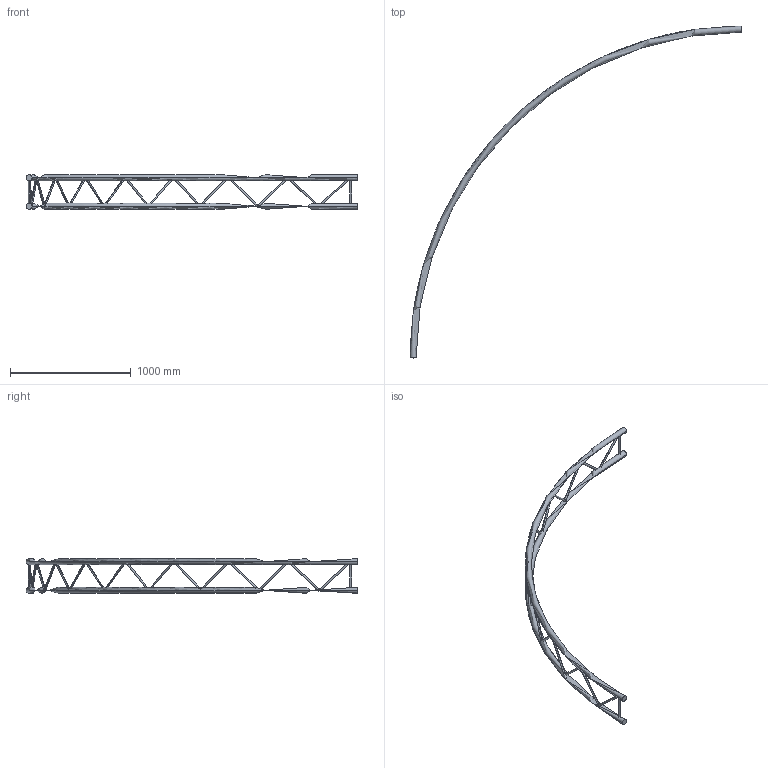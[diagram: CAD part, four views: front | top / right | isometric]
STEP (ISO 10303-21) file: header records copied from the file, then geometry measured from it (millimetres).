
FILE_DESCRIPTION (( 'STEP AP203' ), '1' );
FILE_NAME ('EXC29550V.STEP', '2009-10-26T09:19:44', ( 'CEDIA' ), ( 'CEDIA INDUSTRIE' ), 'SwSTEP 2.0', 'SolidWorks 2009', '' );
FILE_SCHEMA (( 'CONFIG_CONTROL_DESIGN' ));
Length unit declared in the file: millimetre
Products named in the file (1): EXC29550V
Bounding box: 2750 x 2750 x 287 mm (x, y, z)
Volume: 17902598.7 mm3; surface area: 1622546.8 mm2
Topology: 2 solids, 2 shells, 62 faces, 152 edges, 96 vertices
Faces by surface type: cylinder 36, plane 22, torus 4
Entity records: 3521 total; most frequent: CARTESIAN_POINT 2053, ORIENTED_EDGE 304, DIRECTION 266, EDGE_CURVE 152, AXIS2_PLACEMENT_3D 111, VERTEX_POINT 96, EDGE_LOOP 80, ADVANCED_FACE 62
